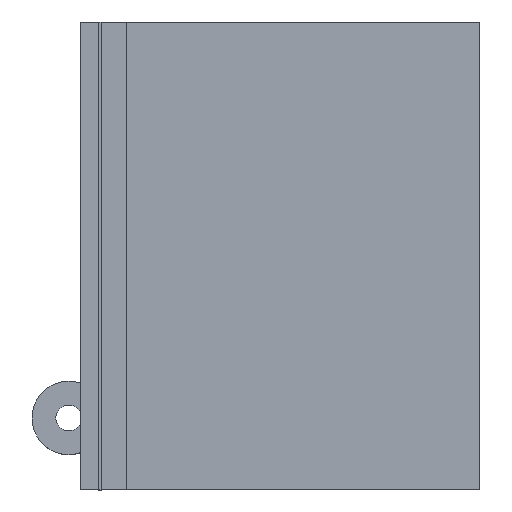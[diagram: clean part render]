
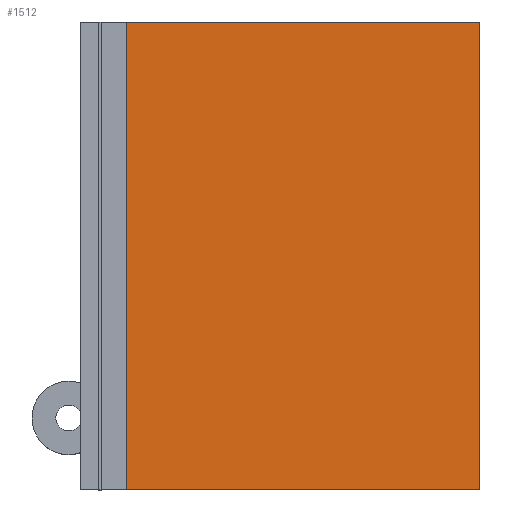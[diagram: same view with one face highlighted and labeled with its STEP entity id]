
A CAD part, top view. The second image highlights one B-rep face of the part: STEP entity #1512.
In plain terms, the highlighted planar face has unit normal (0, 0, 1).
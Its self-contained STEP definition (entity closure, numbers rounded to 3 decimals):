
#44 = PLANE('',#45);
#45 = AXIS2_PLACEMENT_3D('',#46,#47,#48);
#46 = CARTESIAN_POINT('',(0.4,-4.318,0.));
#47 = DIRECTION('',(0.,1.,0.));
#48 = DIRECTION('',(0.,0.,1.));
#287 = PLANE('',#288);
#288 = AXIS2_PLACEMENT_3D('',#289,#290,#291);
#289 = CARTESIAN_POINT('',(0.4,23.751,0.));
#290 = DIRECTION('',(0.,1.,0.));
#291 = DIRECTION('',(0.,0.,1.));
#544 = VERTEX_POINT('',#545);
#545 = CARTESIAN_POINT('',(1.64,-4.318,0.35));
#559 = PLANE('',#560);
#560 = AXIS2_PLACEMENT_3D('',#561,#562,#563);
#561 = CARTESIAN_POINT('',(1.64,-4.318,-0.042));
#562 = DIRECTION('',(1.,0.,0.));
#563 = DIRECTION('',(0.,0.,1.));
#571 = EDGE_CURVE('',#544,#572,#574,.T.);
#572 = VERTEX_POINT('',#573);
#573 = CARTESIAN_POINT('',(24.368,-4.318,0.35));
#574 = SURFACE_CURVE('',#575,(#579,#586),.PCURVE_S1.);
#575 = LINE('',#576,#577);
#576 = CARTESIAN_POINT('',(0.4,-4.318,0.35));
#577 = VECTOR('',#578,1.);
#578 = DIRECTION('',(1.,0.,0.));
#579 = PCURVE('',#44,#580);
#580 = DEFINITIONAL_REPRESENTATION('',(#581),#585);
#581 = LINE('',#582,#583);
#582 = CARTESIAN_POINT('',(0.35,0.));
#583 = VECTOR('',#584,1.);
#584 = DIRECTION('',(0.,1.));
#585 = ( GEOMETRIC_REPRESENTATION_CONTEXT(2) 
PARAMETRIC_REPRESENTATION_CONTEXT() REPRESENTATION_CONTEXT('2D SPACE',''
  ) );
#586 = PCURVE('',#587,#592);
#587 = PLANE('',#588);
#588 = AXIS2_PLACEMENT_3D('',#589,#590,#591);
#589 = CARTESIAN_POINT('',(0.4,-4.318,0.35));
#590 = DIRECTION('',(0.,0.,1.));
#591 = DIRECTION('',(1.,0.,0.));
#592 = DEFINITIONAL_REPRESENTATION('',(#593),#597);
#593 = LINE('',#594,#595);
#594 = CARTESIAN_POINT('',(0.,0.));
#595 = VECTOR('',#596,1.);
#596 = DIRECTION('',(1.,0.));
#597 = ( GEOMETRIC_REPRESENTATION_CONTEXT(2) 
PARAMETRIC_REPRESENTATION_CONTEXT() REPRESENTATION_CONTEXT('2D SPACE',''
  ) );
#615 = PLANE('',#616);
#616 = AXIS2_PLACEMENT_3D('',#617,#618,#619);
#617 = CARTESIAN_POINT('',(24.368,-4.318,0.));
#618 = DIRECTION('',(1.,0.,0.));
#619 = DIRECTION('',(0.,0.,1.));
#930 = VERTEX_POINT('',#931);
#931 = CARTESIAN_POINT('',(1.64,23.751,0.35));
#945 = PLANE('',#946);
#946 = AXIS2_PLACEMENT_3D('',#947,#948,#949);
#947 = CARTESIAN_POINT('',(1.64,-4.318,-0.042));
#948 = DIRECTION('',(1.,0.,0.));
#949 = DIRECTION('',(0.,0.,1.));
#957 = EDGE_CURVE('',#930,#958,#960,.T.);
#958 = VERTEX_POINT('',#959);
#959 = CARTESIAN_POINT('',(24.368,23.751,0.35));
#960 = SURFACE_CURVE('',#961,(#965,#972),.PCURVE_S1.);
#961 = LINE('',#962,#963);
#962 = CARTESIAN_POINT('',(0.4,23.751,0.35));
#963 = VECTOR('',#964,1.);
#964 = DIRECTION('',(1.,0.,0.));
#965 = PCURVE('',#287,#966);
#966 = DEFINITIONAL_REPRESENTATION('',(#967),#971);
#967 = LINE('',#968,#969);
#968 = CARTESIAN_POINT('',(0.35,0.));
#969 = VECTOR('',#970,1.);
#970 = DIRECTION('',(0.,1.));
#971 = ( GEOMETRIC_REPRESENTATION_CONTEXT(2) 
PARAMETRIC_REPRESENTATION_CONTEXT() REPRESENTATION_CONTEXT('2D SPACE',''
  ) );
#972 = PCURVE('',#587,#973);
#973 = DEFINITIONAL_REPRESENTATION('',(#974),#978);
#974 = LINE('',#975,#976);
#975 = CARTESIAN_POINT('',(0.,28.07));
#976 = VECTOR('',#977,1.);
#977 = DIRECTION('',(1.,0.));
#978 = ( GEOMETRIC_REPRESENTATION_CONTEXT(2) 
PARAMETRIC_REPRESENTATION_CONTEXT() REPRESENTATION_CONTEXT('2D SPACE',''
  ) );
#1435 = CYLINDRICAL_SURFACE('',#1436,2.2);
#1436 = AXIS2_PLACEMENT_3D('',#1437,#1438,#1439);
#1437 = CARTESIAN_POINT('',(-0.3,0.,0.));
#1438 = DIRECTION('',(-0.,-0.,-1.));
#1439 = DIRECTION('',(1.,0.,0.));
#1472 = EDGE_CURVE('',#544,#1473,#1475,.T.);
#1473 = VERTEX_POINT('',#1474);
#1474 = CARTESIAN_POINT('',(1.64,-1.037,0.35));
#1475 = SURFACE_CURVE('',#1476,(#1480,#1486),.PCURVE_S1.);
#1476 = LINE('',#1477,#1478);
#1477 = CARTESIAN_POINT('',(1.64,-4.318,0.35));
#1478 = VECTOR('',#1479,1.);
#1479 = DIRECTION('',(0.,1.,0.));
#1480 = PCURVE('',#559,#1481);
#1481 = DEFINITIONAL_REPRESENTATION('',(#1482),#1485);
#1482 = B_SPLINE_CURVE_WITH_KNOTS('',1,(#1483,#1484),.UNSPECIFIED.,.F.,
  .F.,(2,2),(0.,28.07),.PIECEWISE_BEZIER_KNOTS.);
#1483 = CARTESIAN_POINT('',(0.392,0.));
#1484 = CARTESIAN_POINT('',(0.392,-28.07));
#1485 = ( GEOMETRIC_REPRESENTATION_CONTEXT(2) 
PARAMETRIC_REPRESENTATION_CONTEXT() REPRESENTATION_CONTEXT('2D SPACE',''
  ) );
#1486 = PCURVE('',#587,#1487);
#1487 = DEFINITIONAL_REPRESENTATION('',(#1488),#1491);
#1488 = B_SPLINE_CURVE_WITH_KNOTS('',1,(#1489,#1490),.UNSPECIFIED.,.F.,
  .F.,(2,2),(0.,28.07),.PIECEWISE_BEZIER_KNOTS.);
#1489 = CARTESIAN_POINT('',(1.24,0.));
#1490 = CARTESIAN_POINT('',(1.24,28.07));
#1491 = ( GEOMETRIC_REPRESENTATION_CONTEXT(2) 
PARAMETRIC_REPRESENTATION_CONTEXT() REPRESENTATION_CONTEXT('2D SPACE',''
  ) );
#1512 = ADVANCED_FACE('',(#1513),#587,.T.);
#1513 = FACE_BOUND('',#1514,.T.);
#1514 = EDGE_LOOP('',(#1515,#1516,#1537,#1563,#1564,#1565));
#1515 = ORIENTED_EDGE('',*,*,#957,.F.);
#1516 = ORIENTED_EDGE('',*,*,#1517,.F.);
#1517 = EDGE_CURVE('',#1518,#930,#1520,.T.);
#1518 = VERTEX_POINT('',#1519);
#1519 = CARTESIAN_POINT('',(1.64,1.037,0.35));
#1520 = SURFACE_CURVE('',#1521,(#1525,#1531),.PCURVE_S1.);
#1521 = LINE('',#1522,#1523);
#1522 = CARTESIAN_POINT('',(1.64,-4.318,0.35));
#1523 = VECTOR('',#1524,1.);
#1524 = DIRECTION('',(0.,1.,0.));
#1525 = PCURVE('',#587,#1526);
#1526 = DEFINITIONAL_REPRESENTATION('',(#1527),#1530);
#1527 = B_SPLINE_CURVE_WITH_KNOTS('',1,(#1528,#1529),.UNSPECIFIED.,.F.,
  .F.,(2,2),(0.,28.07),.PIECEWISE_BEZIER_KNOTS.);
#1528 = CARTESIAN_POINT('',(1.24,0.));
#1529 = CARTESIAN_POINT('',(1.24,28.07));
#1530 = ( GEOMETRIC_REPRESENTATION_CONTEXT(2) 
PARAMETRIC_REPRESENTATION_CONTEXT() REPRESENTATION_CONTEXT('2D SPACE',''
  ) );
#1531 = PCURVE('',#945,#1532);
#1532 = DEFINITIONAL_REPRESENTATION('',(#1533),#1536);
#1533 = B_SPLINE_CURVE_WITH_KNOTS('',1,(#1534,#1535),.UNSPECIFIED.,.F.,
  .F.,(2,2),(0.,28.07),.PIECEWISE_BEZIER_KNOTS.);
#1534 = CARTESIAN_POINT('',(0.392,0.));
#1535 = CARTESIAN_POINT('',(0.392,-28.07));
#1536 = ( GEOMETRIC_REPRESENTATION_CONTEXT(2) 
PARAMETRIC_REPRESENTATION_CONTEXT() REPRESENTATION_CONTEXT('2D SPACE',''
  ) );
#1537 = ORIENTED_EDGE('',*,*,#1538,.T.);
#1538 = EDGE_CURVE('',#1518,#1473,#1539,.T.);
#1539 = SURFACE_CURVE('',#1540,(#1545,#1556),.PCURVE_S1.);
#1540 = CIRCLE('',#1541,2.2);
#1541 = AXIS2_PLACEMENT_3D('',#1542,#1543,#1544);
#1542 = CARTESIAN_POINT('',(-0.3,0.,0.35));
#1543 = DIRECTION('',(0.,0.,-1.));
#1544 = DIRECTION('',(0.882,0.472,0.));
#1545 = PCURVE('',#587,#1546);
#1546 = DEFINITIONAL_REPRESENTATION('',(#1547),#1555);
#1547 = ( BOUNDED_CURVE() B_SPLINE_CURVE(2,(#1548,#1549,#1550,#1551,
#1552,#1553,#1554),.UNSPECIFIED.,.T.,.F.) B_SPLINE_CURVE_WITH_KNOTS((1,2
    ,2,2,2,1),(-2.094,0.,2.094,4.189,
6.283,8.378),.UNSPECIFIED.) CURVE() 
GEOMETRIC_REPRESENTATION_ITEM() RATIONAL_B_SPLINE_CURVE((1.,0.5,1.,0.5,
1.,0.5,1.)) REPRESENTATION_ITEM('') );
#1548 = CARTESIAN_POINT('',(1.24,5.356));
#1549 = CARTESIAN_POINT('',(3.037,1.996));
#1550 = CARTESIAN_POINT('',(-0.772,2.12));
#1551 = CARTESIAN_POINT('',(-4.58,2.243));
#1552 = CARTESIAN_POINT('',(-2.568,5.48));
#1553 = CARTESIAN_POINT('',(-0.557,8.716));
#1554 = CARTESIAN_POINT('',(1.24,5.356));
#1555 = ( GEOMETRIC_REPRESENTATION_CONTEXT(2) 
PARAMETRIC_REPRESENTATION_CONTEXT() REPRESENTATION_CONTEXT('2D SPACE',''
  ) );
#1556 = PCURVE('',#1435,#1557);
#1557 = DEFINITIONAL_REPRESENTATION('',(#1558),#1562);
#1558 = LINE('',#1559,#1560);
#1559 = CARTESIAN_POINT('',(-6.774,-0.35));
#1560 = VECTOR('',#1561,1.);
#1561 = DIRECTION('',(1.,-0.));
#1562 = ( GEOMETRIC_REPRESENTATION_CONTEXT(2) 
PARAMETRIC_REPRESENTATION_CONTEXT() REPRESENTATION_CONTEXT('2D SPACE',''
  ) );
#1563 = ORIENTED_EDGE('',*,*,#1472,.F.);
#1564 = ORIENTED_EDGE('',*,*,#571,.T.);
#1565 = ORIENTED_EDGE('',*,*,#1566,.T.);
#1566 = EDGE_CURVE('',#572,#958,#1567,.T.);
#1567 = SURFACE_CURVE('',#1568,(#1572,#1579),.PCURVE_S1.);
#1568 = LINE('',#1569,#1570);
#1569 = CARTESIAN_POINT('',(24.368,-4.318,0.35));
#1570 = VECTOR('',#1571,1.);
#1571 = DIRECTION('',(0.,1.,0.));
#1572 = PCURVE('',#587,#1573);
#1573 = DEFINITIONAL_REPRESENTATION('',(#1574),#1578);
#1574 = LINE('',#1575,#1576);
#1575 = CARTESIAN_POINT('',(23.968,0.));
#1576 = VECTOR('',#1577,1.);
#1577 = DIRECTION('',(0.,1.));
#1578 = ( GEOMETRIC_REPRESENTATION_CONTEXT(2) 
PARAMETRIC_REPRESENTATION_CONTEXT() REPRESENTATION_CONTEXT('2D SPACE',''
  ) );
#1579 = PCURVE('',#615,#1580);
#1580 = DEFINITIONAL_REPRESENTATION('',(#1581),#1585);
#1581 = LINE('',#1582,#1583);
#1582 = CARTESIAN_POINT('',(0.35,0.));
#1583 = VECTOR('',#1584,1.);
#1584 = DIRECTION('',(0.,-1.));
#1585 = ( GEOMETRIC_REPRESENTATION_CONTEXT(2) 
PARAMETRIC_REPRESENTATION_CONTEXT() REPRESENTATION_CONTEXT('2D SPACE',''
  ) );
